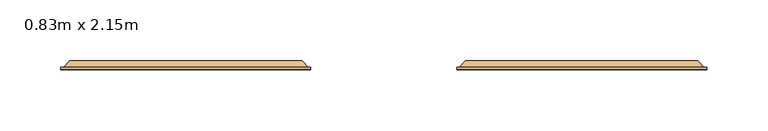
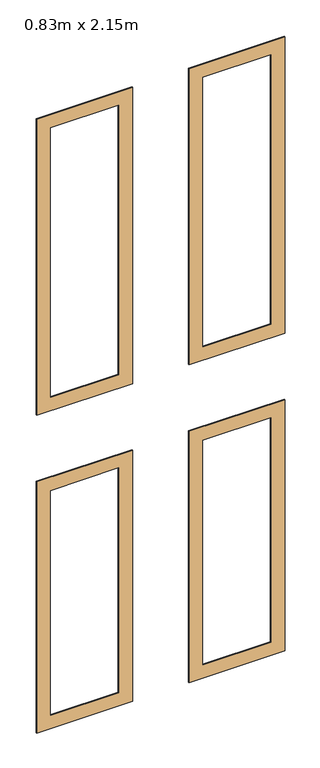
"""IFC4 building model written with IfcOpenShell, lengths in millimetres: door geometry, Entrée - 01 : 0.83m x 2.15m."""

from ifc_helpers import new_model, si_unit, frame, origin, place, context, project, spatial, polyline, ellipse_curve, source, transform, mapped, element, save
from ifc_brep_helpers import plane_surface, revolved_surface, advanced_brep


def door_0_83m_x_2_15m_6004029d(model_context):
    return source(origin(), model_context, "Body", "AdvancedBrep", [
        advanced_brep(
        [(265.0, 127.2546167, 149.9942165), (265.0, 127.2546167, 716.6666667), (265.0, 125.2546167, 716.6666667), (265.0, 125.2546167, 149.9942165), (257.9088796, 132.2546167, 157.0853369), (257.9088796, 132.2546167, 709.5755462), (262.851518, 127.2546167, 714.5181846), (262.851518, 127.2546167, 152.1426985), (245.0, 132.2546167, 169.9942165), (245.0, 132.2546167, 696.6666667), (255.0, 132.2546167, 706.6666667), (255.0, 132.2546167, 159.9942165), (236.9651836, 127.2546167, 178.0290328), (236.9651836, 127.2546167, 688.6318503), (242.0232109, 132.2546167, 693.6898776), (242.0232109, 132.2546167, 172.9710056), (235.0, 125.2546167, 179.9942165), (235.0, 125.2546167, 686.6666667), (235.0, 127.2546167, 686.6666667), (235.0, 127.2546167, 179.9942165), (60.0, 127.2546167, 716.6666667), (60.0, 125.2546167, 716.6666667), (67.0911204, 132.2546167, 709.5755462), (62.148482, 127.2546167, 714.5181846), (80.0, 132.2546167, 696.6666667), (70.0, 132.2546167, 706.6666667), (88.0348164, 127.2546167, 688.6318503), (82.9767891, 132.2546167, 693.6898776), (90.0, 125.2546167, 686.6666667), (90.0, 127.2546167, 686.6666667), (60.0, 127.2546167, 149.9942165), (60.0, 125.2546167, 149.9942165), (67.0911204, 132.2546167, 157.0853369), (62.148482, 127.2546167, 152.1426985), (80.0, 132.2546167, 169.9942165), (70.0, 132.2546167, 159.9942165), (88.0348164, 127.2546167, 178.0290328), (82.9767891, 132.2546167, 172.9710056), (90.0, 125.2546167, 179.9942165), (90.0, 127.2546167, 179.9942165)],
        [
            (0, 1),
            (1, 2),
            (2, 3),
            (3, 0),
            (4, 5),
            (5, 6),
            (6, 7),
            (7, 4),
            (8, 9),
            (9, 10, ellipse_curve(frame((250.0, 137.5042909, 701.6666667), z_axis=(-0.7071067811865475, 0.0, 0.7071067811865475), x_axis=(0.7071067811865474, 0.0, 0.7071067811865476)), 10.2527146, 7.249764)),
            (10, 11),
            (11, 8, ellipse_curve(frame((250.0, 137.5042909, 164.9942165), z_axis=(-0.7071067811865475, 0.0, -0.7071067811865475), x_axis=(-0.7071067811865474, 0.0, 0.7071067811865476)), 10.2527146, 7.249764)),
            (12, 13),
            (13, 14),
            (14, 15),
            (15, 12),
            (16, 17),
            (17, 18),
            (18, 19),
            (19, 16),
            (1, 20),
            (20, 21),
            (21, 2),
            (5, 22),
            (22, 23),
            (23, 6),
            (9, 24),
            (24, 25, ellipse_curve(frame((75.0, 137.5042909, 701.6666667), z_axis=(-0.7071067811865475, 0.0, -0.7071067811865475), x_axis=(-0.7071067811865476, 0.0, 0.7071067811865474)), 10.2527146, 7.249764)),
            (25, 10),
            (13, 26),
            (26, 27),
            (27, 14),
            (17, 28),
            (28, 29),
            (29, 18),
            (20, 30),
            (30, 31),
            (31, 21),
            (22, 32),
            (32, 33),
            (33, 23),
            (24, 34),
            (34, 35, ellipse_curve(frame((75.0, 137.5042909, 164.9942165), z_axis=(0.7071067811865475, 0.0, -0.7071067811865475), x_axis=(-0.7071067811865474, 0.0, -0.7071067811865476)), 10.2527146, 7.249764)),
            (35, 25),
            (26, 36),
            (36, 37),
            (37, 27),
            (28, 38),
            (38, 39),
            (39, 29),
            (31, 3),
            (16, 38),
            (30, 0),
            (33, 7),
            (32, 4),
            (35, 11),
            (34, 8),
            (37, 15),
            (36, 12),
            (39, 19),
        ],
        [
            plane_surface(frame((265.0, 125.2546167, 149.9942165), z_axis=(1.0, 0.0, 0.0), x_axis=(0.0, 0.0, 1.0))),
            plane_surface(frame((262.851518, 127.2546167, 152.1426985), z_axis=(0.7111744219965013, 0.7030156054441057, 0.0), x_axis=(0.0, 0.0, 1.0))),
            revolved_surface(polyline([(257.249764, 137.5042909, 708.9164307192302), (257.249764, 137.5042909, 157.74445248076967)]), (250.0, 137.5042909, 149.9942165), (0.0, 0.0, 1.0)),
            plane_surface(frame((242.0232109, 132.2546167, 172.9710056), z_axis=(-0.7030156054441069, 0.7111744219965, 0.0), x_axis=(0.0, 0.0, 1.0))),
            plane_surface(frame((235.0, 127.2546167, 179.9942165), z_axis=(-1.0, 0.0, 0.0), x_axis=(0.0, 0.0, 1.0))),
            plane_surface(frame((265.0, 125.2546167, 716.6666667), z_axis=(0.0, 0.0, 1.0), x_axis=(-1.0, 0.0, 0.0))),
            plane_surface(frame((262.851518, 127.2546167, 714.5181846), z_axis=(0.0, 0.7030156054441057, 0.7111744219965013), x_axis=(-1.0, 0.0, 0.0))),
            revolved_surface(polyline([(67.75023598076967, 137.5042909, 708.9164307), (257.2497640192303, 137.5042909, 708.9164307)]), (265.0, 137.5042909, 701.6666667), (-1.0, 0.0, 0.0)),
            plane_surface(frame((242.0232109, 132.2546167, 693.6898776), z_axis=(0.0, 0.7111744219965, -0.7030156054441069), x_axis=(-1.0, 0.0, 0.0))),
            plane_surface(frame((235.0, 127.2546167, 686.6666667), z_axis=(0.0, 0.0, -1.0), x_axis=(-1.0, 0.0, 0.0))),
            plane_surface(frame((60.0, 125.2546167, 716.6666667), z_axis=(-1.0, 0.0, 0.0), x_axis=(0.0, 0.0, -1.0))),
            plane_surface(frame((62.148482, 127.2546167, 714.5181846), z_axis=(-0.7111744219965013, 0.7030156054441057, 0.0), x_axis=(0.0, 0.0, -1.0))),
            revolved_surface(polyline([(67.750236, 137.5042909, 157.74445248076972), (67.750236, 137.5042909, 708.9164307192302)]), (75.0, 137.5042909, 716.6666667), (0.0, 0.0, -1.0)),
            plane_surface(frame((82.9767891, 132.2546167, 693.6898776), z_axis=(0.7030156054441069, 0.7111744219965, 0.0), x_axis=(0.0, 0.0, -1.0))),
            plane_surface(frame((90.0, 127.2546167, 686.6666667), z_axis=(1.0, 0.0, 0.0), x_axis=(0.0, 0.0, -1.0))),
            plane_surface(frame((90.0, 125.2546167, 179.9942165), z_axis=(0.0, -1.0, 0.0), x_axis=(1.0, 0.0, 0.0))),
            plane_surface(frame((60.0, 125.2546167, 149.9942165), z_axis=(0.0, 0.0, -1.0), x_axis=(1.0, 0.0, 0.0))),
            plane_surface(frame((60.0, 127.2546167, 149.9942165), z_axis=(0.0, 1.0, 0.0), x_axis=(1.0, 0.0, 0.0))),
            plane_surface(frame((62.148482, 127.2546167, 152.1426985), z_axis=(0.0, 0.7030156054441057, -0.7111744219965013), x_axis=(1.0, 0.0, 0.0))),
            plane_surface(frame((67.0911204, 132.2546167, 157.0853369), z_axis=(0.0, 1.0, 0.0), x_axis=(1.0, 0.0, 0.0))),
            revolved_surface(polyline([(257.2497640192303, 137.5042909, 157.7444525), (67.75023598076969, 137.5042909, 157.7444525)]), (60.0, 137.5042909, 164.9942165), (1.0, 0.0, 0.0)),
            plane_surface(frame((80.0, 132.2546167, 169.9942165), z_axis=(0.0, 1.0, 0.0), x_axis=(1.0, 0.0, 0.0))),
            plane_surface(frame((82.9767891, 132.2546167, 172.9710056), z_axis=(0.0, 0.7111744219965, 0.7030156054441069), x_axis=(1.0, 0.0, 0.0))),
            plane_surface(frame((88.0348164, 127.2546167, 178.0290328), z_axis=(0.0, 1.0, 0.0), x_axis=(1.0, 0.0, 0.0))),
            plane_surface(frame((90.0, 127.2546167, 179.9942165), z_axis=(0.0, 0.0, 1.0), x_axis=(1.0, 0.0, 0.0))),
        ],
        [
            (0, [[1, 2, 3, 4]]),
            (1, [[5, 6, 7, 8]]),
            (2, [[9, 10, 11, 12]]),
            (3, [[13, 14, 15, 16]]),
            (4, [[17, 18, 19, 20]]),
            (5, [[21, 22, 23, -2]]),
            (6, [[24, 25, 26, -6]]),
            (7, [[27, 28, 29, -10]]),
            (8, [[30, 31, 32, -14]]),
            (9, [[33, 34, 35, -18]]),
            (10, [[36, 37, 38, -22]]),
            (11, [[39, 40, 41, -25]]),
            (12, [[42, 43, 44, -28]]),
            (13, [[45, 46, 47, -31]]),
            (14, [[48, 49, 50, -34]]),
            (15, [[-3, -23, -38, 51], [-17, 52, -48, -33]]),
            (16, [[53, -4, -51, -37]]),
            (17, [[-1, -53, -36, -21], [-7, -26, -41, 54]]),
            (18, [[55, -8, -54, -40]]),
            (19, [[-5, -55, -39, -24], [-11, -29, -44, 56]]),
            (20, [[57, -12, -56, -43]]),
            (21, [[-9, -57, -42, -27], [-15, -32, -47, 58]]),
            (22, [[59, -16, -58, -46]]),
            (23, [[-13, -59, -45, -30], [-19, -35, -50, 60]]),
            (24, [[-52, -20, -60, -49]]),
        ],
    ),
        advanced_brep(
        [(265.0, 127.2546167, 866.6666667), (265.0, 127.2546167, 1535.0), (265.0, 125.2546167, 1535.0), (265.0, 125.2546167, 866.6666667), (257.9088796, 132.2546167, 873.7577871), (257.9088796, 132.2546167, 1527.9088796), (262.851518, 127.2546167, 1532.851518), (262.851518, 127.2546167, 868.8151487), (245.0, 132.2546167, 886.6666667), (245.0, 132.2546167, 1515.0), (255.0, 132.2546167, 1525.0), (255.0, 132.2546167, 876.6666667), (236.9651836, 127.2546167, 894.701483), (236.9651836, 127.2546167, 1506.9651836), (242.0232109, 132.2546167, 1512.0232109), (242.0232109, 132.2546167, 889.6434558), (235.0, 125.2546167, 896.6666667), (235.0, 125.2546167, 1505.0), (235.0, 127.2546167, 1505.0), (235.0, 127.2546167, 896.6666667), (60.0, 127.2546167, 1535.0), (60.0, 125.2546167, 1535.0), (67.0911204, 132.2546167, 1527.9088796), (62.148482, 127.2546167, 1532.851518), (80.0, 132.2546167, 1515.0), (70.0, 132.2546167, 1525.0), (88.0348164, 127.2546167, 1506.9651836), (82.9767891, 132.2546167, 1512.0232109), (90.0, 125.2546167, 1505.0), (90.0, 127.2546167, 1505.0), (60.0, 127.2546167, 866.6666667), (60.0, 125.2546167, 866.6666667), (67.0911204, 132.2546167, 873.7577871), (62.148482, 127.2546167, 868.8151487), (80.0, 132.2546167, 886.6666667), (70.0, 132.2546167, 876.6666667), (88.0348164, 127.2546167, 894.701483), (82.9767891, 132.2546167, 889.6434558), (90.0, 125.2546167, 896.6666667), (90.0, 127.2546167, 896.6666667)],
        [
            (0, 1),
            (1, 2),
            (2, 3),
            (3, 0),
            (4, 5),
            (5, 6),
            (6, 7),
            (7, 4),
            (8, 9),
            (9, 10, ellipse_curve(frame((250.0, 137.5042909, 1520.0), z_axis=(-0.7071067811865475, 0.0, 0.7071067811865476), x_axis=(0.7071067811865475, 0.0, 0.7071067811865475)), 10.2527146, 7.249764)),
            (10, 11),
            (11, 8, ellipse_curve(frame((250.0, 137.5042909, 881.6666667), z_axis=(-0.7071067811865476, 0.0, -0.7071067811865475), x_axis=(-0.7071067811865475, 0.0, 0.7071067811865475)), 10.2527146, 7.249764)),
            (12, 13),
            (13, 14),
            (14, 15),
            (15, 12),
            (16, 17),
            (17, 18),
            (18, 19),
            (19, 16),
            (1, 20),
            (20, 21),
            (21, 2),
            (5, 22),
            (22, 23),
            (23, 6),
            (9, 24),
            (24, 25, ellipse_curve(frame((75.0, 137.5042909, 1520.0), z_axis=(-0.7071067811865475, 0.0, -0.7071067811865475), x_axis=(-0.7071067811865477, 0.0, 0.7071067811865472)), 10.2527146, 7.249764)),
            (25, 10),
            (13, 26),
            (26, 27),
            (27, 14),
            (17, 28),
            (28, 29),
            (29, 18),
            (20, 30),
            (30, 31),
            (31, 21),
            (22, 32),
            (32, 33),
            (33, 23),
            (24, 34),
            (34, 35, ellipse_curve(frame((75.0, 137.5042909, 881.6666667), z_axis=(0.7071067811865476, 0.0, -0.7071067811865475), x_axis=(-0.7071067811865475, 0.0, -0.7071067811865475)), 10.2527146, 7.249764)),
            (35, 25),
            (26, 36),
            (36, 37),
            (37, 27),
            (28, 38),
            (38, 39),
            (39, 29),
            (31, 3),
            (16, 38),
            (30, 0),
            (33, 7),
            (32, 4),
            (35, 11),
            (34, 8),
            (37, 15),
            (36, 12),
            (39, 19),
        ],
        [
            plane_surface(frame((265.0, 125.2546167, 866.6666667), z_axis=(1.0, 0.0, 0.0), x_axis=(0.0, 0.0, 1.0))),
            plane_surface(frame((262.851518, 127.2546167, 868.8151487), z_axis=(0.7111744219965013, 0.7030156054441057, 0.0), x_axis=(0.0, 0.0, 1.0))),
            revolved_surface(polyline([(257.249764, 137.5042909, 1527.2497640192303), (257.249764, 137.5042909, 874.4169026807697)]), (250.0, 137.5042909, 866.6666667), (0.0, 0.0, 1.0)),
            plane_surface(frame((242.0232109, 132.2546167, 889.6434558), z_axis=(-0.7030156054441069, 0.7111744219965, 0.0), x_axis=(0.0, 0.0, 1.0))),
            plane_surface(frame((235.0, 127.2546167, 896.6666667), z_axis=(-1.0, 0.0, 0.0), x_axis=(0.0, 0.0, 1.0))),
            plane_surface(frame((265.0, 125.2546167, 1535.0), z_axis=(0.0, 0.0, 1.0), x_axis=(-1.0, 0.0, 0.0))),
            plane_surface(frame((262.851518, 127.2546167, 1532.851518), z_axis=(0.0, 0.7030156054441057, 0.7111744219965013), x_axis=(-1.0, 0.0, 0.0))),
            revolved_surface(polyline([(67.75023598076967, 137.5042909, 1527.249764), (257.2497640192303, 137.5042909, 1527.249764)]), (265.0, 137.5042909, 1520.0), (-1.0, 0.0, 0.0)),
            plane_surface(frame((242.0232109, 132.2546167, 1512.0232109), z_axis=(0.0, 0.7111744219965, -0.7030156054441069), x_axis=(-1.0, 0.0, 0.0))),
            plane_surface(frame((235.0, 127.2546167, 1505.0), z_axis=(0.0, 0.0, -1.0), x_axis=(-1.0, 0.0, 0.0))),
            plane_surface(frame((60.0, 125.2546167, 1535.0), z_axis=(-1.0, 0.0, 0.0), x_axis=(0.0, 0.0, -1.0))),
            plane_surface(frame((62.148482, 127.2546167, 1532.851518), z_axis=(-0.7111744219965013, 0.7030156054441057, 0.0), x_axis=(0.0, 0.0, -1.0))),
            revolved_surface(polyline([(67.750236, 137.5042909, 874.4169026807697), (67.750236, 137.5042909, 1527.2497640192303)]), (75.0, 137.5042909, 1535.0), (0.0, 0.0, -1.0)),
            plane_surface(frame((82.9767891, 132.2546167, 1512.0232109), z_axis=(0.7030156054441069, 0.7111744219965, 0.0), x_axis=(0.0, 0.0, -1.0))),
            plane_surface(frame((90.0, 127.2546167, 1505.0), z_axis=(1.0, 0.0, 0.0), x_axis=(0.0, 0.0, -1.0))),
            plane_surface(frame((90.0, 125.2546167, 896.6666667), z_axis=(0.0, -1.0, 0.0), x_axis=(1.0, 0.0, 0.0))),
            plane_surface(frame((60.0, 125.2546167, 866.6666667), z_axis=(0.0, 0.0, -1.0), x_axis=(1.0, 0.0, 0.0))),
            plane_surface(frame((60.0, 127.2546167, 866.6666667), z_axis=(0.0, 1.0, 0.0), x_axis=(1.0, 0.0, 0.0))),
            plane_surface(frame((62.148482, 127.2546167, 868.8151487), z_axis=(0.0, 0.7030156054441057, -0.7111744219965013), x_axis=(1.0, 0.0, 0.0))),
            plane_surface(frame((67.0911204, 132.2546167, 873.7577871), z_axis=(0.0, 1.0, 0.0), x_axis=(1.0, 0.0, 0.0))),
            revolved_surface(polyline([(257.2497640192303, 137.5042909, 874.4169026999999), (67.75023598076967, 137.5042909, 874.4169026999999)]), (60.0, 137.5042909, 881.6666667), (1.0, 0.0, 0.0)),
            plane_surface(frame((80.0, 132.2546167, 886.6666667), z_axis=(0.0, 1.0, 0.0), x_axis=(1.0, 0.0, 0.0))),
            plane_surface(frame((82.9767891, 132.2546167, 889.6434558), z_axis=(0.0, 0.7111744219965, 0.7030156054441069), x_axis=(1.0, 0.0, 0.0))),
            plane_surface(frame((88.0348164, 127.2546167, 894.701483), z_axis=(0.0, 1.0, 0.0), x_axis=(1.0, 0.0, 0.0))),
            plane_surface(frame((90.0, 127.2546167, 896.6666667), z_axis=(0.0, 0.0, 1.0), x_axis=(1.0, 0.0, 0.0))),
        ],
        [
            (0, [[1, 2, 3, 4]]),
            (1, [[5, 6, 7, 8]]),
            (2, [[9, 10, 11, 12]]),
            (3, [[13, 14, 15, 16]]),
            (4, [[17, 18, 19, 20]]),
            (5, [[21, 22, 23, -2]]),
            (6, [[24, 25, 26, -6]]),
            (7, [[27, 28, 29, -10]]),
            (8, [[30, 31, 32, -14]]),
            (9, [[33, 34, 35, -18]]),
            (10, [[36, 37, 38, -22]]),
            (11, [[39, 40, 41, -25]]),
            (12, [[42, 43, 44, -28]]),
            (13, [[45, 46, 47, -31]]),
            (14, [[48, 49, 50, -34]]),
            (15, [[-3, -23, -38, 51], [-17, 52, -48, -33]]),
            (16, [[53, -4, -51, -37]]),
            (17, [[-1, -53, -36, -21], [-7, -26, -41, 54]]),
            (18, [[55, -8, -54, -40]]),
            (19, [[-5, -55, -39, -24], [-11, -29, -44, 56]]),
            (20, [[57, -12, -56, -43]]),
            (21, [[-9, -57, -42, -27], [-15, -32, -47, 58]]),
            (22, [[59, -16, -58, -46]]),
            (23, [[-13, -59, -45, -30], [-19, -35, -50, 60]]),
            (24, [[-52, -20, -60, -49]]),
        ],
    ),
        advanced_brep(
        [(-60.0, 127.2546167, 866.6666667), (-60.0, 127.2546167, 1535.0), (-60.0, 125.2546167, 1535.0), (-60.0, 125.2546167, 866.6666667), (-67.0911204, 132.2546167, 873.7577871), (-67.0911204, 132.2546167, 1527.9088796), (-62.148482, 127.2546167, 1532.851518), (-62.148482, 127.2546167, 868.8151487), (-80.0, 132.2546167, 886.6666667), (-80.0, 132.2546167, 1515.0), (-70.0, 132.2546167, 1525.0), (-70.0, 132.2546167, 876.6666667), (-88.0348164, 127.2546167, 894.701483), (-88.0348164, 127.2546167, 1506.9651836), (-82.9767891, 132.2546167, 1512.0232109), (-82.9767891, 132.2546167, 889.6434558), (-90.0, 125.2546167, 896.6666667), (-90.0, 125.2546167, 1505.0), (-90.0, 127.2546167, 1505.0), (-90.0, 127.2546167, 896.6666667), (-265.0, 127.2546167, 1535.0), (-265.0, 125.2546167, 1535.0), (-257.9088796, 132.2546167, 1527.9088796), (-262.851518, 127.2546167, 1532.851518), (-245.0, 132.2546167, 1515.0), (-255.0, 132.2546167, 1525.0), (-236.9651836, 127.2546167, 1506.9651836), (-242.0232109, 132.2546167, 1512.0232109), (-235.0, 125.2546167, 1505.0), (-235.0, 127.2546167, 1505.0), (-265.0, 127.2546167, 866.6666667), (-265.0, 125.2546167, 866.6666667), (-257.9088796, 132.2546167, 873.7577871), (-262.851518, 127.2546167, 868.8151487), (-245.0, 132.2546167, 886.6666667), (-255.0, 132.2546167, 876.6666667), (-236.9651836, 127.2546167, 894.701483), (-242.0232109, 132.2546167, 889.6434558), (-235.0, 125.2546167, 896.6666667), (-235.0, 127.2546167, 896.6666667)],
        [
            (0, 1),
            (1, 2),
            (2, 3),
            (3, 0),
            (4, 5),
            (5, 6),
            (6, 7),
            (7, 4),
            (8, 9),
            (9, 10, ellipse_curve(frame((-75.0, 137.5042909, 1520.0), z_axis=(-0.7071067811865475, 0.0, 0.7071067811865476), x_axis=(0.7071067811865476, 0.0, 0.7071067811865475)), 10.2527146, 7.249764)),
            (10, 11),
            (11, 8, ellipse_curve(frame((-75.0, 137.5042909, 881.6666667), z_axis=(-0.7071067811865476, 0.0, -0.7071067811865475), x_axis=(-0.7071067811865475, 0.0, 0.7071067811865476)), 10.2527146, 7.249764)),
            (12, 13),
            (13, 14),
            (14, 15),
            (15, 12),
            (16, 17),
            (17, 18),
            (18, 19),
            (19, 16),
            (1, 20),
            (20, 21),
            (21, 2),
            (5, 22),
            (22, 23),
            (23, 6),
            (9, 24),
            (24, 25, ellipse_curve(frame((-250.0, 137.5042909, 1520.0), z_axis=(-0.7071067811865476, 0.0, -0.7071067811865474), x_axis=(-0.7071067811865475, 0.0, 0.7071067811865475)), 10.2527146, 7.249764)),
            (25, 10),
            (13, 26),
            (26, 27),
            (27, 14),
            (17, 28),
            (28, 29),
            (29, 18),
            (20, 30),
            (30, 31),
            (31, 21),
            (22, 32),
            (32, 33),
            (33, 23),
            (24, 34),
            (34, 35, ellipse_curve(frame((-250.0, 137.5042909, 881.6666667), z_axis=(0.7071067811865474, 0.0, -0.7071067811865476), x_axis=(-0.7071067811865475, 0.0, -0.7071067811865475)), 10.2527146, 7.249764)),
            (35, 25),
            (26, 36),
            (36, 37),
            (37, 27),
            (28, 38),
            (38, 39),
            (39, 29),
            (31, 3),
            (16, 38),
            (30, 0),
            (33, 7),
            (32, 4),
            (35, 11),
            (34, 8),
            (37, 15),
            (36, 12),
            (39, 19),
        ],
        [
            plane_surface(frame((-60.0, 125.2546167, 866.6666667), z_axis=(1.0, 0.0, 0.0), x_axis=(0.0, 0.0, 1.0))),
            plane_surface(frame((-62.148482, 127.2546167, 868.8151487), z_axis=(0.7111744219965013, 0.7030156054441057, 0.0), x_axis=(0.0, 0.0, 1.0))),
            revolved_surface(polyline([(-67.750236, 137.5042909, 1527.2497640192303), (-67.750236, 137.5042909, 874.4169026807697)]), (-75.0, 137.5042909, 866.6666667), (0.0, 0.0, 1.0)),
            plane_surface(frame((-82.9767891, 132.2546167, 889.6434558), z_axis=(-0.7030156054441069, 0.7111744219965, 0.0), x_axis=(0.0, 0.0, 1.0))),
            plane_surface(frame((-90.0, 127.2546167, 896.6666667), z_axis=(-1.0, 0.0, 0.0), x_axis=(0.0, 0.0, 1.0))),
            plane_surface(frame((-60.0, 125.2546167, 1535.0), z_axis=(0.0, 0.0, 1.0), x_axis=(-1.0, 0.0, 0.0))),
            plane_surface(frame((-62.148482, 127.2546167, 1532.851518), z_axis=(0.0, 0.7030156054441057, 0.7111744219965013), x_axis=(-1.0, 0.0, 0.0))),
            revolved_surface(polyline([(-257.2497640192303, 137.5042909, 1527.249764), (-67.75023598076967, 137.5042909, 1527.249764)]), (-60.0, 137.5042909, 1520.0), (-1.0, 0.0, 0.0)),
            plane_surface(frame((-82.9767891, 132.2546167, 1512.0232109), z_axis=(0.0, 0.7111744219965, -0.7030156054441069), x_axis=(-1.0, 0.0, 0.0))),
            plane_surface(frame((-90.0, 127.2546167, 1505.0), z_axis=(0.0, 0.0, -1.0), x_axis=(-1.0, 0.0, 0.0))),
            plane_surface(frame((-265.0, 125.2546167, 1535.0), z_axis=(-1.0, 0.0, 0.0), x_axis=(0.0, 0.0, -1.0))),
            plane_surface(frame((-262.851518, 127.2546167, 1532.851518), z_axis=(-0.7111744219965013, 0.7030156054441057, 0.0), x_axis=(0.0, 0.0, -1.0))),
            revolved_surface(polyline([(-257.249764, 137.5042909, 874.4169026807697), (-257.249764, 137.5042909, 1527.2497640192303)]), (-250.0, 137.5042909, 1535.0), (0.0, 0.0, -1.0)),
            plane_surface(frame((-242.0232109, 132.2546167, 1512.0232109), z_axis=(0.7030156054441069, 0.7111744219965, 0.0), x_axis=(0.0, 0.0, -1.0))),
            plane_surface(frame((-235.0, 127.2546167, 1505.0), z_axis=(1.0, 0.0, 0.0), x_axis=(0.0, 0.0, -1.0))),
            plane_surface(frame((-235.0, 125.2546167, 896.6666667), z_axis=(0.0, -1.0, 0.0), x_axis=(1.0, 0.0, 0.0))),
            plane_surface(frame((-265.0, 125.2546167, 866.6666667), z_axis=(0.0, 0.0, -1.0), x_axis=(1.0, 0.0, 0.0))),
            plane_surface(frame((-265.0, 127.2546167, 866.6666667), z_axis=(0.0, 1.0, 0.0), x_axis=(1.0, 0.0, 0.0))),
            plane_surface(frame((-262.851518, 127.2546167, 868.8151487), z_axis=(0.0, 0.7030156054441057, -0.7111744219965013), x_axis=(1.0, 0.0, 0.0))),
            plane_surface(frame((-257.9088796, 132.2546167, 873.7577871), z_axis=(0.0, 1.0, 0.0), x_axis=(1.0, 0.0, 0.0))),
            revolved_surface(polyline([(-67.75023598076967, 137.5042909, 874.4169026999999), (-257.2497640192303, 137.5042909, 874.4169026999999)]), (-265.0, 137.5042909, 881.6666667), (1.0, 0.0, 0.0)),
            plane_surface(frame((-245.0, 132.2546167, 886.6666667), z_axis=(0.0, 1.0, 0.0), x_axis=(1.0, 0.0, 0.0))),
            plane_surface(frame((-242.0232109, 132.2546167, 889.6434558), z_axis=(0.0, 0.7111744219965, 0.7030156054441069), x_axis=(1.0, 0.0, 0.0))),
            plane_surface(frame((-236.9651836, 127.2546167, 894.701483), z_axis=(0.0, 1.0, 0.0), x_axis=(1.0, 0.0, 0.0))),
            plane_surface(frame((-235.0, 127.2546167, 896.6666667), z_axis=(0.0, 0.0, 1.0), x_axis=(1.0, 0.0, 0.0))),
        ],
        [
            (0, [[1, 2, 3, 4]]),
            (1, [[5, 6, 7, 8]]),
            (2, [[9, 10, 11, 12]]),
            (3, [[13, 14, 15, 16]]),
            (4, [[17, 18, 19, 20]]),
            (5, [[21, 22, 23, -2]]),
            (6, [[24, 25, 26, -6]]),
            (7, [[27, 28, 29, -10]]),
            (8, [[30, 31, 32, -14]]),
            (9, [[33, 34, 35, -18]]),
            (10, [[36, 37, 38, -22]]),
            (11, [[39, 40, 41, -25]]),
            (12, [[42, 43, 44, -28]]),
            (13, [[45, 46, 47, -31]]),
            (14, [[48, 49, 50, -34]]),
            (15, [[-3, -23, -38, 51], [-17, 52, -48, -33]]),
            (16, [[53, -4, -51, -37]]),
            (17, [[-1, -53, -36, -21], [-7, -26, -41, 54]]),
            (18, [[55, -8, -54, -40]]),
            (19, [[-5, -55, -39, -24], [-11, -29, -44, 56]]),
            (20, [[57, -12, -56, -43]]),
            (21, [[-9, -57, -42, -27], [-15, -32, -47, 58]]),
            (22, [[59, -16, -58, -46]]),
            (23, [[-13, -59, -45, -30], [-19, -35, -50, 60]]),
            (24, [[-52, -20, -60, -49]]),
        ],
    ),
        advanced_brep(
        [(-60.0, 127.2546167, 150.0), (-60.0, 127.2546167, 716.6666667), (-60.0, 125.2546167, 716.6666667), (-60.0, 125.2546167, 150.0), (-67.0911204, 132.2546167, 157.0911204), (-67.0911204, 132.2546167, 709.5755462), (-62.148482, 127.2546167, 714.5181846), (-62.148482, 127.2546167, 152.148482), (-80.0, 132.2546167, 170.0), (-80.0, 132.2546167, 696.6666667), (-70.0, 132.2546167, 706.6666667), (-70.0, 132.2546167, 160.0), (-88.0348164, 127.2546167, 178.0348164), (-88.0348164, 127.2546167, 688.6318503), (-82.9767891, 132.2546167, 693.6898776), (-82.9767891, 132.2546167, 172.9767891), (-90.0, 125.2546167, 180.0), (-90.0, 125.2546167, 686.6666667), (-90.0, 127.2546167, 686.6666667), (-90.0, 127.2546167, 180.0), (-265.0, 127.2546167, 716.6666667), (-265.0, 125.2546167, 716.6666667), (-257.9088796, 132.2546167, 709.5755462), (-262.851518, 127.2546167, 714.5181846), (-245.0, 132.2546167, 696.6666667), (-255.0, 132.2546167, 706.6666667), (-236.9651836, 127.2546167, 688.6318503), (-242.0232109, 132.2546167, 693.6898776), (-235.0, 125.2546167, 686.6666667), (-235.0, 127.2546167, 686.6666667), (-265.0, 127.2546167, 150.0), (-265.0, 125.2546167, 150.0), (-257.9088796, 132.2546167, 157.0911204), (-262.851518, 127.2546167, 152.148482), (-245.0, 132.2546167, 170.0), (-255.0, 132.2546167, 160.0), (-236.9651836, 127.2546167, 178.0348164), (-242.0232109, 132.2546167, 172.9767891), (-235.0, 125.2546167, 180.0), (-235.0, 127.2546167, 180.0)],
        [
            (0, 1),
            (1, 2),
            (2, 3),
            (3, 0),
            (4, 5),
            (5, 6),
            (6, 7),
            (7, 4),
            (8, 9),
            (9, 10, ellipse_curve(frame((-75.0, 137.5042909, 701.6666667), z_axis=(-0.7071067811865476, 0.0, 0.7071067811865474), x_axis=(0.7071067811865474, 0.0, 0.7071067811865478)), 10.2527146, 7.249764)),
            (10, 11),
            (11, 8, ellipse_curve(frame((-75.0, 137.5042909, 165.0), z_axis=(-0.7071067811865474, 0.0, -0.7071067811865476), x_axis=(-0.7071067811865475, 0.0, 0.7071067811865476)), 10.2527146, 7.249764)),
            (12, 13),
            (13, 14),
            (14, 15),
            (15, 12),
            (16, 17),
            (17, 18),
            (18, 19),
            (19, 16),
            (1, 20),
            (20, 21),
            (21, 2),
            (5, 22),
            (22, 23),
            (23, 6),
            (9, 24),
            (24, 25, ellipse_curve(frame((-250.0, 137.5042909, 701.6666667), z_axis=(-0.7071067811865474, 0.0, -0.7071067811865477), x_axis=(-0.7071067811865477, 0.0, 0.7071067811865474)), 10.2527146, 7.249764)),
            (25, 10),
            (13, 26),
            (26, 27),
            (27, 14),
            (17, 28),
            (28, 29),
            (29, 18),
            (20, 30),
            (30, 31),
            (31, 21),
            (22, 32),
            (32, 33),
            (33, 23),
            (24, 34),
            (34, 35, ellipse_curve(frame((-250.0, 137.5042909, 165.0), z_axis=(0.7071067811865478, 0.0, -0.7071067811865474), x_axis=(-0.7071067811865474, 0.0, -0.7071067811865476)), 10.2527146, 7.249764)),
            (35, 25),
            (26, 36),
            (36, 37),
            (37, 27),
            (28, 38),
            (38, 39),
            (39, 29),
            (31, 3),
            (16, 38),
            (30, 0),
            (33, 7),
            (32, 4),
            (35, 11),
            (34, 8),
            (37, 15),
            (36, 12),
            (39, 19),
        ],
        [
            plane_surface(frame((-60.0, 125.2546167, 150.0), z_axis=(1.0, 0.0, 0.0), x_axis=(0.0, 0.0, 1.0))),
            plane_surface(frame((-62.148482, 127.2546167, 152.148482), z_axis=(0.7111744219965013, 0.7030156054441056, 0.0), x_axis=(0.0, 0.0, 1.0))),
            revolved_surface(polyline([(-67.750236, 137.5042909, 708.9164307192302), (-67.750236, 137.5042909, 157.75023598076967)]), (-75.0, 137.5042909, 150.0), (0.0, 0.0, 1.0)),
            plane_surface(frame((-82.9767891, 132.2546167, 172.9767891), z_axis=(-0.7030156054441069, 0.7111744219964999, 0.0), x_axis=(0.0, 0.0, 1.0))),
            plane_surface(frame((-90.0, 127.2546167, 180.0), z_axis=(-1.0, 0.0, 0.0), x_axis=(0.0, 0.0, 1.0))),
            plane_surface(frame((-60.0, 125.2546167, 716.6666667), z_axis=(0.0, 0.0, 1.0), x_axis=(-1.0, 0.0, 0.0))),
            plane_surface(frame((-62.148482, 127.2546167, 714.5181846), z_axis=(0.0, 0.7030156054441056, 0.7111744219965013), x_axis=(-1.0, 0.0, 0.0))),
            revolved_surface(polyline([(-257.2497640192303, 137.5042909, 708.9164307), (-67.75023598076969, 137.5042909, 708.9164307)]), (-60.0, 137.5042909, 701.6666667), (-1.0, 0.0, 0.0)),
            plane_surface(frame((-82.9767891, 132.2546167, 693.6898776), z_axis=(0.0, 0.7111744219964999, -0.7030156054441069), x_axis=(-1.0, 0.0, 0.0))),
            plane_surface(frame((-90.0, 127.2546167, 686.6666667), z_axis=(0.0, 0.0, -1.0), x_axis=(-1.0, 0.0, 0.0))),
            plane_surface(frame((-265.0, 125.2546167, 716.6666667), z_axis=(-1.0, 0.0, 0.0), x_axis=(0.0, 0.0, -1.0))),
            plane_surface(frame((-262.851518, 127.2546167, 714.5181846), z_axis=(-0.7111744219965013, 0.7030156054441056, 0.0), x_axis=(0.0, 0.0, -1.0))),
            revolved_surface(polyline([(-257.249764, 137.5042909, 157.75023598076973), (-257.249764, 137.5042909, 708.9164307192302)]), (-250.0, 137.5042909, 716.6666667), (0.0, 0.0, -1.0)),
            plane_surface(frame((-242.0232109, 132.2546167, 693.6898776), z_axis=(0.7030156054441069, 0.7111744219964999, 0.0), x_axis=(0.0, 0.0, -1.0))),
            plane_surface(frame((-235.0, 127.2546167, 686.6666667), z_axis=(1.0, 0.0, 0.0), x_axis=(0.0, 0.0, -1.0))),
            plane_surface(frame((-235.0, 125.2546167, 180.0), z_axis=(0.0, -1.0, 0.0), x_axis=(1.0, 0.0, 0.0))),
            plane_surface(frame((-265.0, 125.2546167, 150.0), z_axis=(0.0, 0.0, -1.0), x_axis=(1.0, 0.0, 0.0))),
            plane_surface(frame((-265.0, 127.2546167, 150.0), z_axis=(0.0, 1.0, 0.0), x_axis=(1.0, 0.0, 0.0))),
            plane_surface(frame((-262.851518, 127.2546167, 152.148482), z_axis=(0.0, 0.7030156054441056, -0.7111744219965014), x_axis=(1.0, 0.0, 0.0))),
            plane_surface(frame((-257.9088796, 132.2546167, 157.0911204), z_axis=(0.0, 1.0, 0.0), x_axis=(1.0, 0.0, 0.0))),
            revolved_surface(polyline([(-67.75023598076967, 137.5042909, 157.750236), (-257.2497640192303, 137.5042909, 157.750236)]), (-265.0, 137.5042909, 165.0), (1.0, 0.0, 0.0)),
            plane_surface(frame((-245.0, 132.2546167, 170.0), z_axis=(0.0, 1.0, 0.0), x_axis=(1.0, 0.0, 0.0))),
            plane_surface(frame((-242.0232109, 132.2546167, 172.9767891), z_axis=(0.0, 0.7111744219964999, 0.703015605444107), x_axis=(1.0, 0.0, 0.0))),
            plane_surface(frame((-236.9651836, 127.2546167, 178.0348164), z_axis=(0.0, 1.0, 0.0), x_axis=(1.0, 0.0, 0.0))),
            plane_surface(frame((-235.0, 127.2546167, 180.0), z_axis=(0.0, 0.0, 1.0), x_axis=(1.0, 0.0, 0.0))),
        ],
        [
            (0, [[1, 2, 3, 4]]),
            (1, [[5, 6, 7, 8]]),
            (2, [[9, 10, 11, 12]]),
            (3, [[13, 14, 15, 16]]),
            (4, [[17, 18, 19, 20]]),
            (5, [[21, 22, 23, -2]]),
            (6, [[24, 25, 26, -6]]),
            (7, [[27, 28, 29, -10]]),
            (8, [[30, 31, 32, -14]]),
            (9, [[33, 34, 35, -18]]),
            (10, [[36, 37, 38, -22]]),
            (11, [[39, 40, 41, -25]]),
            (12, [[42, 43, 44, -28]]),
            (13, [[45, 46, 47, -31]]),
            (14, [[48, 49, 50, -34]]),
            (15, [[-3, -23, -38, 51], [-17, 52, -48, -33]]),
            (16, [[53, -4, -51, -37]]),
            (17, [[-1, -53, -36, -21], [-7, -26, -41, 54]]),
            (18, [[55, -8, -54, -40]]),
            (19, [[-5, -55, -39, -24], [-11, -29, -44, 56]]),
            (20, [[57, -12, -56, -43]]),
            (21, [[-9, -57, -42, -27], [-15, -32, -47, 58]]),
            (22, [[59, -16, -58, -46]]),
            (23, [[-13, -59, -45, -30], [-19, -35, -50, 60]]),
            (24, [[-52, -20, -60, -49]]),
        ],
    ),
    ])


if __name__ == "__main__":
    model = new_model("IFC4")
    model_context = context("Model", 3, world=origin())
    ifc_project = project(units=[si_unit("LENGTHUNIT", "METRE", prefix="MILLI")], contexts=[model_context])
    site = spatial("IfcSite", under=ifc_project)
    building = spatial("IfcBuilding", under=site)
    placement = place(None, origin())
    door_0_83m_x_2_15m_shape = door_0_83m_x_2_15m_6004029d(model_context)
    element("IfcDoor", 1, ObjectType="Entrée - 01 : 0.83m x 2.15m", at=placement, inside=building, context=model_context, shape_type="MappedRepresentation", body=[
        mapped(door_0_83m_x_2_15m_shape, transform((0.0, 0.0, 0.0), x_axis=(1.0, 0.0, 0.0), y_axis=(0.0, 1.0, 0.0), z_axis=(0.0, 0.0, 1.0))),
    ])
    save(model, "model.ifc")
